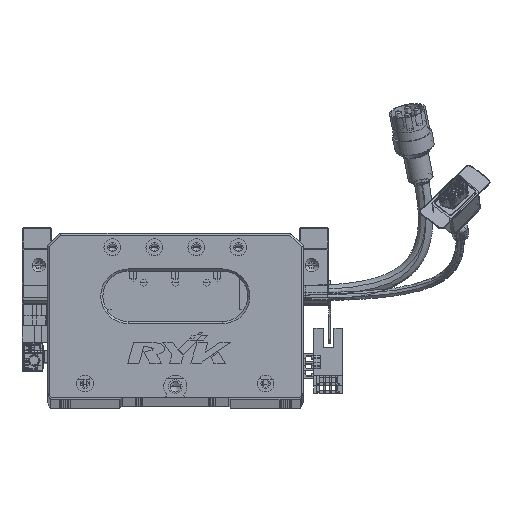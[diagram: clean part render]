
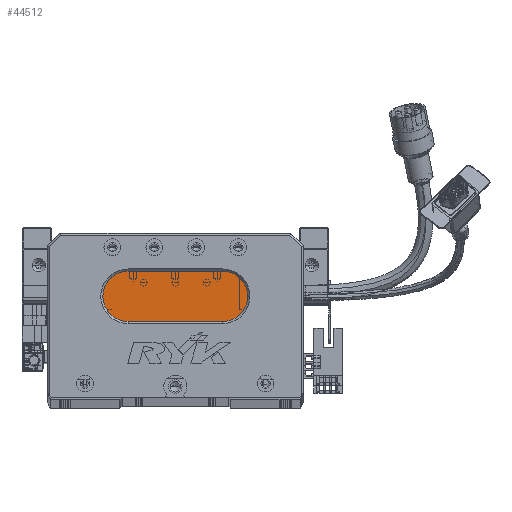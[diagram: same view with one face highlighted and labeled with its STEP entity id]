
A CAD part, top view. The second image highlights one B-rep face of the part: STEP entity #44512.
In plain terms, the highlighted planar face has unit normal (0, 0, 1) as drawn and (0, 0, -1) by its records, which use the part's own axes.
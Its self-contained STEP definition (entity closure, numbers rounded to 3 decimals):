
#181 = ORIENTED_EDGE ( 'NONE', *, *, #69657, .T. ) ;
#2951 = AXIS2_PLACEMENT_3D ( 'NONE', #75718, #38804, #65900 ) ;
#3091 = DIRECTION ( 'NONE',  ( -1., 0., 0. ) ) ;
#6513 = EDGE_CURVE ( 'NONE', #82890, #21207, #100379, .T. ) ;
#6516 = AXIS2_PLACEMENT_3D ( 'NONE', #111306, #27576, #54668 ) ;
#6706 = AXIS2_PLACEMENT_3D ( 'NONE', #64885, #111302, #120328 ) ;
#11477 = AXIS2_PLACEMENT_3D ( 'NONE', #64225, #18273, #83077 ) ;
#11900 = LINE ( 'NONE', #50224, #60259 ) ;
#15135 = CARTESIAN_POINT ( 'NONE',  ( 38.5, 60., 13. ) ) ;
#15255 = CIRCLE ( 'NONE', #11477, 12. ) ;
#18273 = DIRECTION ( 'NONE',  ( 0., 0., -1. ) ) ;
#21207 = VERTEX_POINT ( 'NONE', #85657 ) ;
#25070 = CARTESIAN_POINT ( 'NONE',  ( 26.5, 48., 13. ) ) ;
#27576 = DIRECTION ( 'NONE',  ( 0., 0., -1. ) ) ;
#32222 = LINE ( 'NONE', #91981, #74812 ) ;
#36287 = CARTESIAN_POINT ( 'NONE',  ( 38.5, 36., 13. ) ) ;
#38804 = DIRECTION ( 'NONE',  ( 0., 0., -1. ) ) ;
#42281 = VERTEX_POINT ( 'NONE', #36287 ) ;
#43192 = VERTEX_POINT ( 'NONE', #15135 ) ;
#44512 = ADVANCED_FACE ( 'NONE', ( #118115 ), #56880, .T. ) ;
#47466 = ORIENTED_EDGE ( 'NONE', *, *, #102886, .T. ) ;
#50224 = CARTESIAN_POINT ( 'NONE',  ( 83.5, 36., 13. ) ) ;
#52145 = EDGE_CURVE ( 'NONE', #42281, #98514, #15255, .T. ) ;
#53007 = CARTESIAN_POINT ( 'NONE',  ( 83.5, 60., 13. ) ) ;
#54140 = EDGE_LOOP ( 'NONE', ( #115714, #181, #59974, #96813, #47466 ) ) ;
#54668 = DIRECTION ( 'NONE',  ( -1., 0., 0. ) ) ;
#56880 = PLANE ( 'NONE',  #2951 ) ;
#59974 = ORIENTED_EDGE ( 'NONE', *, *, #52145, .T. ) ;
#60259 = VECTOR ( 'NONE', #3091, 1000. ) ;
#64225 = CARTESIAN_POINT ( 'NONE',  ( 38.5, 48., 13. ) ) ;
#64885 = CARTESIAN_POINT ( 'NONE',  ( 38.5, 48., 13. ) ) ;
#65900 = DIRECTION ( 'NONE',  ( -1., 0., 0. ) ) ;
#69657 = EDGE_CURVE ( 'NONE', #21207, #42281, #11900, .T. ) ;
#72490 = EDGE_CURVE ( 'NONE', #98514, #43192, #80498, .T. ) ;
#74812 = VECTOR ( 'NONE', #120293, 1000. ) ;
#75718 = CARTESIAN_POINT ( 'NONE',  ( 83.5, 48., 13. ) ) ;
#80498 = CIRCLE ( 'NONE', #6706, 12. ) ;
#82890 = VERTEX_POINT ( 'NONE', #53007 ) ;
#83077 = DIRECTION ( 'NONE',  ( -1., 0., 0. ) ) ;
#85657 = CARTESIAN_POINT ( 'NONE',  ( 83.5, 36., 13. ) ) ;
#91981 = CARTESIAN_POINT ( 'NONE',  ( 83.5, 60., 13. ) ) ;
#96813 = ORIENTED_EDGE ( 'NONE', *, *, #72490, .T. ) ;
#98514 = VERTEX_POINT ( 'NONE', #25070 ) ;
#100379 = CIRCLE ( 'NONE', #6516, 12. ) ;
#102886 = EDGE_CURVE ( 'NONE', #43192, #82890, #32222, .T. ) ;
#111302 = DIRECTION ( 'NONE',  ( 0., 0., -1. ) ) ;
#111306 = CARTESIAN_POINT ( 'NONE',  ( 83.5, 48., 13. ) ) ;
#115714 = ORIENTED_EDGE ( 'NONE', *, *, #6513, .T. ) ;
#118115 = FACE_OUTER_BOUND ( 'NONE', #54140, .T. ) ;
#120293 = DIRECTION ( 'NONE',  ( 1., 0., 0. ) ) ;
#120328 = DIRECTION ( 'NONE',  ( -1., 0., 0. ) ) ;
